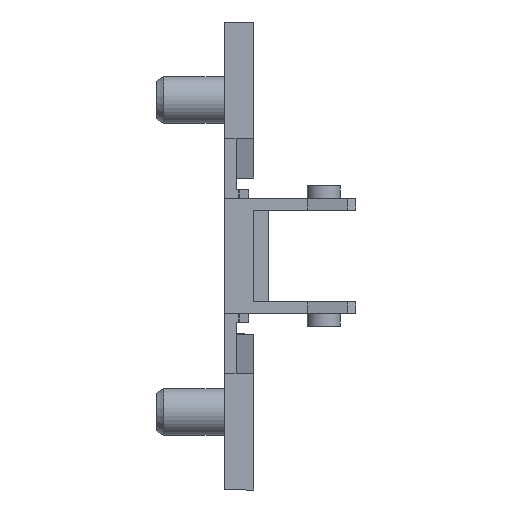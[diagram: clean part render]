
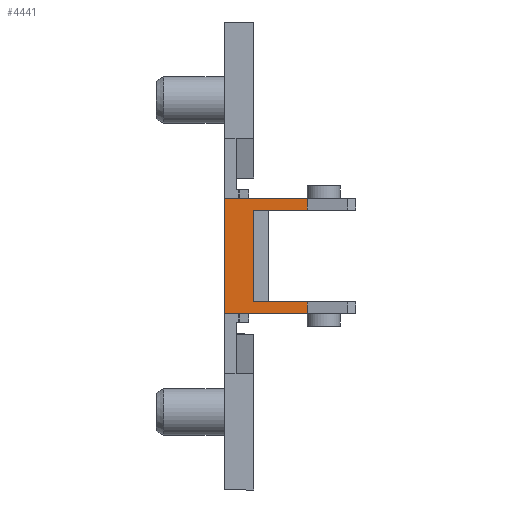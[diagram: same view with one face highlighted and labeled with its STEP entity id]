
A CAD part, front view. The second image highlights one B-rep face of the part: STEP entity #4441.
In plain terms, the highlighted planar face has unit normal (0, -1, 0).
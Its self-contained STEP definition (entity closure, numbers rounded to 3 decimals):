
#178 = CARTESIAN_POINT ( 'NONE',  ( 5.523, -25.55, -5.9 ) ) ;
#242 = CARTESIAN_POINT ( 'NONE',  ( 10.5, -25.55, -5.9 ) ) ;
#264 = VECTOR ( 'NONE', #4552, 1000. ) ;
#287 = DIRECTION ( 'NONE',  ( 0., -1., 0. ) ) ;
#293 = CARTESIAN_POINT ( 'NONE',  ( 10.5, -25.55, 4.7 ) ) ;
#373 = VECTOR ( 'NONE', #2274, 1000. ) ;
#499 = LINE ( 'NONE', #4257, #1052 ) ;
#555 = ORIENTED_EDGE ( 'NONE', *, *, #2139, .F. ) ;
#606 = LINE ( 'NONE', #3886, #4325 ) ;
#648 = EDGE_CURVE ( 'NONE', #1529, #855, #499, .T. ) ;
#687 = LINE ( 'NONE', #2358, #3581 ) ;
#782 = ORIENTED_EDGE ( 'NONE', *, *, #1032, .F. ) ;
#829 = EDGE_CURVE ( 'NONE', #3848, #1445, #2310, .T. ) ;
#855 = VERTEX_POINT ( 'NONE', #4316 ) ;
#1019 = ORIENTED_EDGE ( 'NONE', *, *, #1735, .F. ) ;
#1032 = EDGE_CURVE ( 'NONE', #3848, #1529, #1846, .T. ) ;
#1052 = VECTOR ( 'NONE', #2832, 1000. ) ;
#1069 = CARTESIAN_POINT ( 'NONE',  ( 5.523, -25.55, 4.7 ) ) ;
#1154 = LINE ( 'NONE', #1566, #4538 ) ;
#1369 = CARTESIAN_POINT ( 'NONE',  ( 0., -25.55, 4.7 ) ) ;
#1445 = VERTEX_POINT ( 'NONE', #1069 ) ;
#1510 = VECTOR ( 'NONE', #1707, 1000. ) ;
#1529 = VERTEX_POINT ( 'NONE', #2269 ) ;
#1566 = CARTESIAN_POINT ( 'NONE',  ( 5.523, -25.55, 67.733 ) ) ;
#1707 = DIRECTION ( 'NONE',  ( 1., 0., 0. ) ) ;
#1735 = EDGE_CURVE ( 'NONE', #4568, #1445, #2698, .T. ) ;
#1829 = EDGE_CURVE ( 'NONE', #3195, #2258, #606, .T. ) ;
#1846 = LINE ( 'NONE', #3696, #2127 ) ;
#1867 = CARTESIAN_POINT ( 'NONE',  ( -3., -25.55, 5.9 ) ) ;
#1955 = CARTESIAN_POINT ( 'NONE',  ( -3., -25.55, -5.9 ) ) ;
#2127 = VECTOR ( 'NONE', #3004, 1000. ) ;
#2139 = EDGE_CURVE ( 'NONE', #855, #2806, #1154, .T. ) ;
#2258 = VERTEX_POINT ( 'NONE', #1955 ) ;
#2269 = CARTESIAN_POINT ( 'NONE',  ( 0., -25.55, -4.7 ) ) ;
#2274 = DIRECTION ( 'NONE',  ( 1., 0., 0. ) ) ;
#2310 = LINE ( 'NONE', #293, #1510 ) ;
#2335 = FACE_OUTER_BOUND ( 'NONE', #4611, .T. ) ;
#2358 = CARTESIAN_POINT ( 'NONE',  ( 10.5, -25.55, 5.9 ) ) ;
#2467 = DIRECTION ( 'NONE',  ( -1., 0., 0. ) ) ;
#2664 = CARTESIAN_POINT ( 'NONE',  ( -1.5, -25.55, -5.9 ) ) ;
#2678 = ORIENTED_EDGE ( 'NONE', *, *, #829, .T. ) ;
#2692 = LINE ( 'NONE', #2664, #373 ) ;
#2698 = LINE ( 'NONE', #3027, #264 ) ;
#2749 = EDGE_CURVE ( 'NONE', #2258, #2806, #2692, .T. ) ;
#2806 = VERTEX_POINT ( 'NONE', #178 ) ;
#2825 = CARTESIAN_POINT ( 'NONE',  ( 5.523, -25.55, 5.9 ) ) ;
#2832 = DIRECTION ( 'NONE',  ( 1., 0., 0. ) ) ;
#3004 = DIRECTION ( 'NONE',  ( 0., 0., -1. ) ) ;
#3027 = CARTESIAN_POINT ( 'NONE',  ( 5.523, -25.55, 67.733 ) ) ;
#3195 = VERTEX_POINT ( 'NONE', #1867 ) ;
#3277 = ORIENTED_EDGE ( 'NONE', *, *, #3595, .T. ) ;
#3392 = AXIS2_PLACEMENT_3D ( 'NONE', #242, #287, #2467 ) ;
#3506 = DIRECTION ( 'NONE',  ( 0., 0., -1. ) ) ;
#3581 = VECTOR ( 'NONE', #3744, 1000. ) ;
#3595 = EDGE_CURVE ( 'NONE', #4568, #3195, #687, .T. ) ;
#3647 = ORIENTED_EDGE ( 'NONE', *, *, #2749, .T. ) ;
#3696 = CARTESIAN_POINT ( 'NONE',  ( 0., -25.55, -5.9 ) ) ;
#3744 = DIRECTION ( 'NONE',  ( -1., 0., 0. ) ) ;
#3848 = VERTEX_POINT ( 'NONE', #1369 ) ;
#3886 = CARTESIAN_POINT ( 'NONE',  ( -3., -25.55, 15.37 ) ) ;
#4233 = ORIENTED_EDGE ( 'NONE', *, *, #648, .F. ) ;
#4257 = CARTESIAN_POINT ( 'NONE',  ( 10.5, -25.55, -4.7 ) ) ;
#4316 = CARTESIAN_POINT ( 'NONE',  ( 5.523, -25.55, -4.7 ) ) ;
#4325 = VECTOR ( 'NONE', #3506, 1000. ) ;
#4425 = DIRECTION ( 'NONE',  ( 0., 0., -1. ) ) ;
#4441 = ADVANCED_FACE ( 'NONE', ( #2335 ), #4577, .T. ) ;
#4538 = VECTOR ( 'NONE', #4425, 1000. ) ;
#4552 = DIRECTION ( 'NONE',  ( 0., 0., -1. ) ) ;
#4568 = VERTEX_POINT ( 'NONE', #2825 ) ;
#4577 = PLANE ( 'NONE',  #3392 ) ;
#4611 = EDGE_LOOP ( 'NONE', ( #782, #2678, #1019, #3277, #4621, #3647, #555, #4233 ) ) ;
#4621 = ORIENTED_EDGE ( 'NONE', *, *, #1829, .T. ) ;
